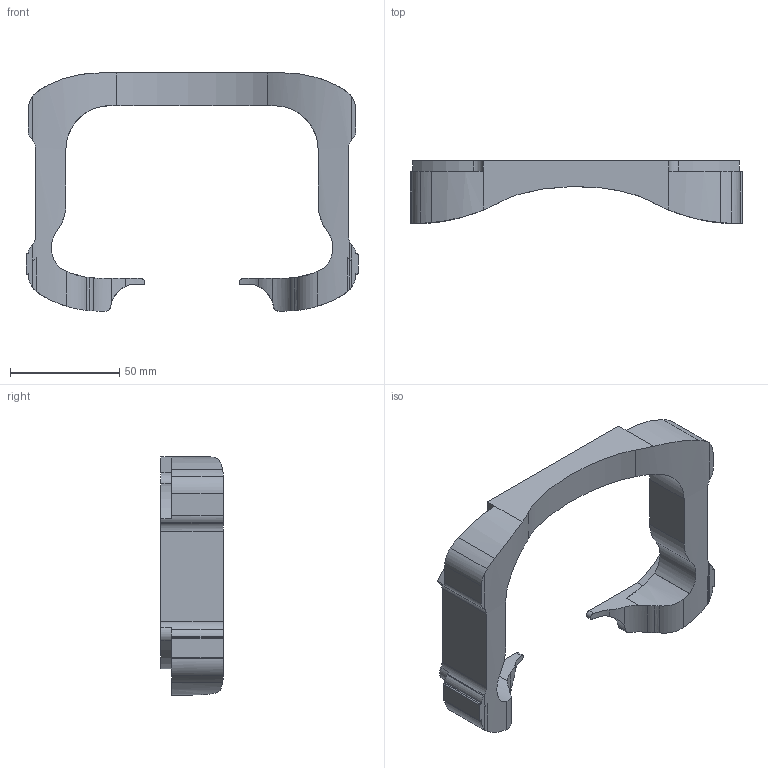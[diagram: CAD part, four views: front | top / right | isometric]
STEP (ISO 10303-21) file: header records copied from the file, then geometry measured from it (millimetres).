
FILE_DESCRIPTION(/* description */ ('STEP AP242 Edition 2','CAx-IF Rec.Pracs.---Representation and Presentation of Product Manufacturing Information (PMI)---4.0---2014-10-13','CAx-IF Rec.Pracs.---3D Tessellated Geometry---0.4---2014-09-14','2;1','CAx-IF Rec.Pracs.---User Defined Attributes---1.5---2016-08-15'),/* implementation_level */ '2;1');
FILE_NAME(/* name */ 'main - Part 1 - outer brim',/* time_stamp */ '2026-11-08T20:03:44Z',/* author */ (''),/* organization */ (''),/* preprocessor_version */ 'ST-DEVELOPER v20',/* originating_system */ 'ONSHAPE BY PTC INC, 1.223',/* authorisation */ ' ');
FILE_SCHEMA (('AP242_MANAGED_MODEL_BASED_3D_ENGINEERING_MIM_LF { 1 0 10303 442 3 1 4 }'));
Length unit declared in the file: metre
Products named in the file (1): Part 1 - outer brim
Bounding box: 152 x 28.71 x 109 mm (x, y, z)
Volume: 109907.3 mm3; surface area: 28544.4 mm2
Topology: 1 solids, 1 shells, 122 faces, 358 edges, 239 vertices
Faces by surface type: cylinder 72, plane 45, bspline 5
Entity records: 4239 total; most frequent: CARTESIAN_POINT 987, ORIENTED_EDGE 716, DIRECTION 649, EDGE_CURVE 358, VERTEX_POINT 239, AXIS2_PLACEMENT_3D 233, LINE 183, VECTOR 183
